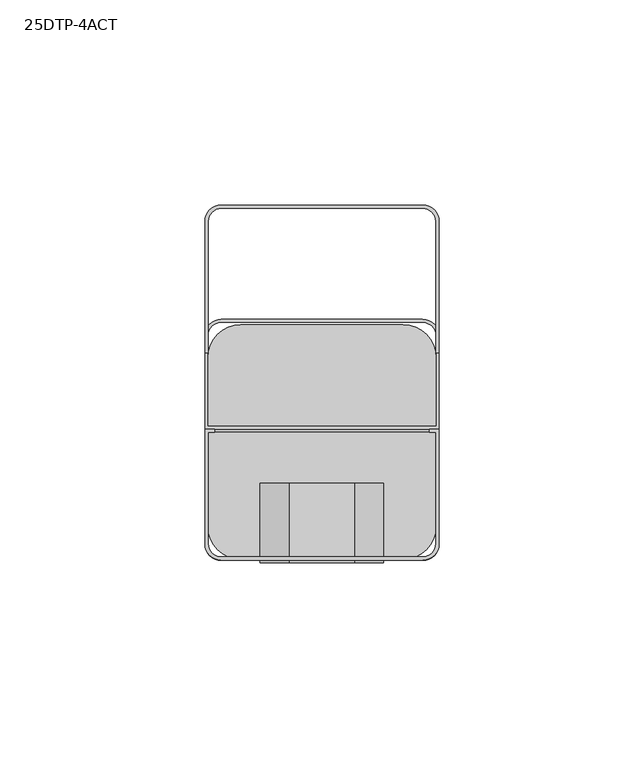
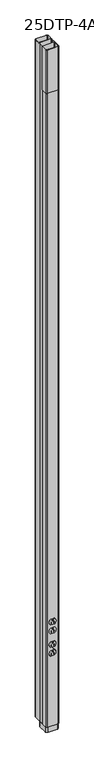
"""IFC4 building model written with IfcOpenShell, lengths in millimetres: proxy geometry, Vertical_Drop_Poles-Wiremold-Steel_Tele-Power_Pole : 25DTP-4ACT."""

from ifc_helpers import new_model, si_unit, point, frame, frame_2d, origin, origin_with_axes, place, context, project, spatial, polyline, circle_curve, trimmed, segment, composite_curve, outline, extrude, source, transform, mapped, element, save


def proxy_25dtp_4act_dfcec477(model_context):
    return source(origin(), model_context, "Body", "SweptSolid", [
        extrude(outline(composite_curve([segment(polyline([(28.575, 31.25), (28.575, 3.25)]), True, "CONTINUOUS"), segment(trimmed(circle_curve(frame_2d((24.575, 3.25)), 4.0), [point((28.575, 3.25))], [point((24.575, -0.75))], False, "CARTESIAN"), True, "CONTINUOUS"), segment(polyline([(24.575, -0.75), (-24.575, -0.75)]), True, "CONTINUOUS"), segment(trimmed(circle_curve(frame_2d((-24.575, 3.25)), 4.0), [point((-24.575, -0.75))], [point((-28.575, 3.25))], False, "CARTESIAN"), True, "CONTINUOUS"), segment(polyline([(-28.575, 3.25), (-28.575, 31.25), (-26.1875, 31.25), (-26.1875, 30.45), (-27.775, 30.45), (-27.775, 3.25)]), True, "CONTINUOUS"), segment(trimmed(circle_curve(frame_2d((-24.575, 3.25)), 3.2), [point((-27.775, 3.25))], [point((-24.575, 0.05))], True, "CARTESIAN"), True, "CONTINUOUS"), segment(polyline([(-24.575, 0.05), (24.575, 0.05)]), True, "CONTINUOUS"), segment(trimmed(circle_curve(frame_2d((24.575, 3.25)), 3.2), [point((24.575, 0.05))], [point((27.775, 3.25))], True, "CARTESIAN"), True, "CONTINUOUS"), segment(polyline([(27.775, 3.25), (27.775, 30.45), (26.1875, 30.45), (26.1875, 31.25), (28.575, 31.25)]), True, "CONTINUOUS")], self_intersect=False)), frame((0.0, 0.0, 2971.8), z_axis=(0.0, 0.0, 1.0), x_axis=(1.0, 0.0, 0.0)), (0.0, 0.0, 1.0), 203.2),
        extrude(outline(composite_curve([segment(trimmed(circle_curve(frame_2d((24.575, 81.8712581)), 4.0), [point((24.575, 85.8712581))], [point((28.575, 81.8712581))], False, "CARTESIAN"), True, "CONTINUOUS"), segment(polyline([(28.575, 81.8712581), (28.575, 49.8958686), (27.775, 49.8958686), (27.775, 81.8712581)]), True, "CONTINUOUS"), segment(trimmed(circle_curve(frame_2d((24.575, 81.8712581)), 3.2), [point((27.775, 81.8712581))], [point((24.575, 85.0712581))], True, "CARTESIAN"), True, "CONTINUOUS"), segment(polyline([(24.575, 85.0712581), (-24.575, 85.0712581)]), True, "CONTINUOUS"), segment(trimmed(circle_curve(frame_2d((-24.575, 81.8712581)), 3.2), [point((-24.575, 85.0712581))], [point((-27.775, 81.8712581))], True, "CARTESIAN"), True, "CONTINUOUS"), segment(polyline([(-27.775, 81.8712581), (-27.775, 49.8958686), (-28.575, 49.8958686), (-28.575, 81.8712581)]), True, "CONTINUOUS"), segment(trimmed(circle_curve(frame_2d((-24.575, 81.8712581)), 4.0), [point((-28.575, 81.8712581))], [point((-24.575, 85.8712581))], False, "CARTESIAN"), True, "CONTINUOUS"), segment(polyline([(-24.575, 85.8712581), (24.575, 85.8712581)]), True, "CONTINUOUS")], self_intersect=False)), origin_with_axes(), (0.0, 0.0, 1.0), 3175.0),
        extrude(outline(composite_curve([segment(trimmed(circle_curve(frame_2d((488.7029331, -1.1591271)), 13.933707), [point((500.85, -7.9853234))], [point((488.7029331, -15.092834))], False, "CARTESIAN"), True, "CONTINUOUS"), segment(polyline([(488.7029331, -15.092834), (486.7854081, -15.092834)]), True, "CONTINUOUS"), segment(trimmed(circle_curve(frame_2d((486.7854081, -0.9909304)), 14.1019036), [point((486.7854081, -15.092834))], [point((474.85, -8.5015708))], False, "CARTESIAN"), True, "CONTINUOUS"), segment(polyline([(474.85, -8.5015708), (474.85, 8.5041234)]), True, "CONTINUOUS"), segment(trimmed(circle_curve(frame_2d((486.6576313, 0.982166)), 14.0), [point((474.85, 8.5041234))], [point((486.6576313, 14.982166))], False, "CARTESIAN"), True, "CONTINUOUS"), segment(polyline([(486.6576313, 14.982166), (488.7451343, 14.982166)]), True, "CONTINUOUS"), segment(trimmed(circle_curve(frame_2d((488.7451343, 0.9958893)), 13.9862766), [point((488.7451343, 14.982166))], [point((500.85, 8.0021838))], False, "CARTESIAN"), True, "CONTINUOUS"), segment(polyline([(500.85, 8.0021838), (500.85, -7.9853234)]), True, "CONTINUOUS")], self_intersect=False), holes=[polyline([(486.9892021, -5.530934), (479.0517021, -5.530934), (479.0517021, -7.1202895), (486.9892021, -7.1202895), (486.9892021, -5.530934)]), polyline([(479.8454521, 5.29348), (486.1954521, 5.29348), (486.1954521, 6.8797105), (479.8454521, 6.8797105), (479.8454521, 5.29348)]), composite_curve([segment(polyline([(497.4329521, 2.240599), (494.2579521, 2.240599)]), True, "CONTINUOUS"), segment(trimmed(circle_curve(frame_2d((494.2579521, -0.140651)), 2.38125), [point((494.2579521, 2.240599))], [point((494.2579521, -2.521901))], True, "CARTESIAN"), True, "CONTINUOUS"), segment(polyline([(494.2579521, -2.521901), (497.4329521, -2.521901), (497.4329521, 2.240599)]), True, "CONTINUOUS")], self_intersect=False)]), frame((0.0, -0.8603814, 0.0), z_axis=(0.0, 1.0, 0.0), x_axis=(0.0, 0.0, 1.0)), (0.0, 0.0, 1.0), 19.3625),
        extrude(outline(composite_curve([segment(polyline([(459.05, 8.7098868), (459.05, -8.7111214)]), True, "CONTINUOUS"), segment(trimmed(circle_curve(frame_2d((447.3453879, -1.1683429)), 13.9244911), [point((459.05, -8.7111214))], [point((447.3453879, -15.092834))], False, "CARTESIAN"), True, "CONTINUOUS"), segment(polyline([(447.3453879, -15.092834), (445.4207127, -15.092834)]), True, "CONTINUOUS"), segment(trimmed(circle_curve(frame_2d((445.4207127, -0.9820385)), 14.1107955), [point((445.4207127, -15.092834))], [point((433.05, -7.7702649))], False, "CARTESIAN"), True, "CONTINUOUS"), segment(polyline([(433.05, -7.7702649), (433.05, 7.7817126)]), True, "CONTINUOUS"), segment(trimmed(circle_curve(frame_2d((445.293109, 0.9733088)), 14.0088572), [point((433.05, 7.7817126))], [point((445.293109, 14.982166))], False, "CARTESIAN"), True, "CONTINUOUS"), segment(polyline([(445.293109, 14.982166), (447.3875692, 14.982166)]), True, "CONTINUOUS"), segment(trimmed(circle_curve(frame_2d((447.3875692, 1.0036923)), 13.9784736), [point((447.3875692, 14.982166))], [point((459.05, 8.7098868))], False, "CARTESIAN"), True, "CONTINUOUS")], self_intersect=False), holes=[polyline([(445.5892021, -5.6947448), (437.6517021, -5.6947448), (437.6517021, -7.2841003), (445.5892021, -7.2841003), (445.5892021, -5.6947448)]), polyline([(438.4454521, 5.29348), (444.7954521, 5.29348), (444.7954521, 6.8797105), (438.4454521, 6.8797105), (438.4454521, 5.29348)]), composite_curve([segment(polyline([(456.0329521, 2.240599), (452.8579521, 2.240599)]), True, "CONTINUOUS"), segment(trimmed(circle_curve(frame_2d((452.8579521, -0.140651)), 2.38125), [point((452.8579521, 2.240599))], [point((452.8579521, -2.521901))], True, "CARTESIAN"), True, "CONTINUOUS"), segment(polyline([(452.8579521, -2.521901), (456.0329521, -2.521901), (456.0329521, 2.240599)]), True, "CONTINUOUS")], self_intersect=False)]), frame((0.0, -0.8603814, 0.0), z_axis=(0.0, 1.0, 0.0), x_axis=(0.0, 0.0, 1.0)), (0.0, 0.0, 1.0), 19.3625),
        extrude(outline(composite_curve([segment(trimmed(circle_curve(frame_2d((19.825, 49.2375)), 8.0), [point((19.825, 57.2375))], [point((27.825, 49.2375))], False, "CARTESIAN"), True, "CONTINUOUS"), segment(polyline([(27.825, 49.2375), (27.825, 8.0)]), True, "CONTINUOUS"), segment(trimmed(circle_curve(frame_2d((19.825, 8.0)), 8.0), [point((27.825, 8.0))], [point((19.825, 0.0))], False, "CARTESIAN"), True, "CONTINUOUS"), segment(polyline([(19.825, 0.0), (-19.825, 0.0)]), True, "CONTINUOUS"), segment(trimmed(circle_curve(frame_2d((-19.825, 8.0)), 8.0), [point((-19.825, 0.0))], [point((-27.825, 8.0))], False, "CARTESIAN"), True, "CONTINUOUS"), segment(polyline([(-27.825, 8.0), (-27.825, 49.2375)]), True, "CONTINUOUS"), segment(trimmed(circle_curve(frame_2d((-19.825, 49.2375)), 8.0), [point((-27.825, 49.2375))], [point((-19.825, 57.2375))], False, "CARTESIAN"), True, "CONTINUOUS"), segment(polyline([(-19.825, 57.2375), (19.825, 57.2375)]), True, "CONTINUOUS")], self_intersect=False)), frame((0.0, 0.0, -25.4), z_axis=(0.0, 0.0, 1.0), x_axis=(1.0, 0.0, 0.0)), (0.0, 0.0, 1.0), 25.4),
        extrude(outline(composite_curve([segment(trimmed(circle_curve(frame_2d((382.9267215, -1.3683703)), 13.514578), [point((394.7420503, -7.9289972))], [point((382.9267215, -14.8829484))], False, "CARTESIAN"), True, "CONTINUOUS"), segment(polyline([(382.9267215, -14.8829484), (381.1701673, -14.8829484)]), True, "CONTINUOUS"), segment(trimmed(circle_curve(frame_2d((381.1701673, -0.7955272)), 14.0874212), [point((381.1701673, -14.8829484))], [point((369.2960251, -8.3757767))], False, "CARTESIAN"), True, "CONTINUOUS"), segment(polyline([(369.2960251, -8.3757767), (369.2960251, 8.3803147)]), True, "CONTINUOUS"), segment(trimmed(circle_curve(frame_2d((380.7601645, 0.7899761)), 13.749172), [point((369.2960251, 8.3803147))], [point((380.7601645, 14.5391481))], False, "CARTESIAN"), True, "CONTINUOUS"), segment(polyline([(380.7601645, 14.5391481), (382.9712291, 14.5391481)]), True, "CONTINUOUS"), segment(trimmed(circle_curve(frame_2d((382.9712291, 0.7346672)), 13.8044809), [point((382.9712291, 14.5391481))], [point((394.7420503, 7.9465645))], False, "CARTESIAN"), True, "CONTINUOUS"), segment(polyline([(394.7420503, 7.9465645), (394.7420503, -7.9289972)]), True, "CONTINUOUS")], self_intersect=False), holes=[polyline([(381.1730138, -5.530934), (373.5125012, -5.530934), (373.5125012, -7.1202895), (381.1730138, -7.1202895), (381.1730138, -5.530934)]), polyline([(374.3062512, 5.29348), (380.3792638, 5.29348), (380.3792638, 6.8797105), (374.3062512, 6.8797105), (374.3062512, 5.29348)]), composite_curve([segment(polyline([(391.6167638, 2.240599), (388.4417638, 2.240599)]), True, "CONTINUOUS"), segment(trimmed(circle_curve(frame_2d((388.4417638, -0.140651)), 2.38125), [point((388.4417638, 2.240599))], [point((388.4417638, -2.521901))], True, "CARTESIAN"), True, "CONTINUOUS"), segment(polyline([(388.4417638, -2.521901), (391.6167638, -2.521901), (391.6167638, 2.240599)]), True, "CONTINUOUS")], self_intersect=False)]), frame((0.0, -0.8603814, 0.0), z_axis=(0.0, 1.0, 0.0), x_axis=(0.0, 0.0, 1.0)), (0.0, 0.0, 1.0), 19.3625),
        extrude(outline(composite_curve([segment(polyline([(353.4960251, 8.732199), (353.4960251, -8.7339979)]), True, "CONTINUOUS"), segment(trimmed(circle_curve(frame_2d((341.9368061, -1.0863882)), 13.8600678), [point((353.4960251, -8.7339979))], [point((341.9368061, -14.946456))], False, "CARTESIAN"), True, "CONTINUOUS"), segment(polyline([(341.9368061, -14.946456), (340.151998, -14.946456)]), True, "CONTINUOUS"), segment(trimmed(circle_curve(frame_2d((340.151998, -1.1565771)), 13.7898789), [point((340.151998, -14.946456))], [point((328.05, -7.7673565))], False, "CARTESIAN"), True, "CONTINUOUS"), segment(polyline([(328.05, -7.7673565), (328.05, 7.7787932)]), True, "CONTINUOUS"), segment(trimmed(circle_curve(frame_2d((340.0358326, 0.6795122)), 13.930541), [point((328.05, 7.7787932))], [point((340.0358326, 14.6100532))], False, "CARTESIAN"), True, "CONTINUOUS"), segment(polyline([(340.0358326, 14.6100532), (342.2553533, 14.6100532)]), True, "CONTINUOUS"), segment(trimmed(circle_curve(frame_2d((342.2553533, 0.9229263)), 13.6871269), [point((342.2553533, 14.6100532))], [point((353.4960251, 8.732199))], False, "CARTESIAN"), True, "CONTINUOUS")], self_intersect=False), holes=[polyline([(340.3269886, -5.6947448), (332.6664761, -5.6947448), (332.6664761, -7.2841003), (340.3269886, -7.2841003), (340.3269886, -5.6947448)]), polyline([(333.4602261, 5.29348), (339.5332386, 5.29348), (339.5332386, 6.8797105), (333.4602261, 6.8797105), (333.4602261, 5.29348)]), composite_curve([segment(polyline([(350.4937512, 2.240599), (347.5957386, 2.240599)]), True, "CONTINUOUS"), segment(trimmed(circle_curve(frame_2d((347.5957386, -0.140651)), 2.38125), [point((347.5957386, 2.240599))], [point((347.5957386, -2.521901))], True, "CARTESIAN"), True, "CONTINUOUS"), segment(polyline([(347.5957386, -2.521901), (350.4937512, -2.521901), (350.4937512, 2.240599)]), True, "CONTINUOUS")], self_intersect=False)]), frame((0.0, -0.8603814, 0.0), z_axis=(0.0, 1.0, 0.0), x_axis=(0.0, 0.0, 1.0)), (0.0, 0.0, 1.0), 19.3625),
        extrude(outline(composite_curve([segment(trimmed(circle_curve(frame_2d((24.575, 53.9875)), 4.0), [point((24.575, 57.9875))], [point((28.575, 53.9875))], False, "CARTESIAN"), True, "CONTINUOUS"), segment(polyline([(28.575, 53.9875), (28.575, 31.25), (-28.575, 31.25), (-28.575, 53.9875)]), True, "CONTINUOUS"), segment(trimmed(circle_curve(frame_2d((-24.575, 53.9875)), 4.0), [point((-28.575, 53.9875))], [point((-24.575, 57.9875))], False, "CARTESIAN"), True, "CONTINUOUS"), segment(polyline([(-24.575, 57.9875), (24.575, 57.9875)]), True, "CONTINUOUS")], self_intersect=False), holes=[composite_curve([segment(polyline([(27.775, 32.05), (27.775, 53.9875)]), True, "CONTINUOUS"), segment(trimmed(circle_curve(frame_2d((24.575, 53.9875)), 3.2), [point((27.775, 53.9875))], [point((24.575, 57.1875))], True, "CARTESIAN"), True, "CONTINUOUS"), segment(polyline([(24.575, 57.1875), (-24.575, 57.1875)]), True, "CONTINUOUS"), segment(trimmed(circle_curve(frame_2d((-24.575, 53.9875)), 3.2), [point((-24.575, 57.1875))], [point((-27.775, 53.9875))], True, "CARTESIAN"), True, "CONTINUOUS"), segment(polyline([(-27.775, 53.9875), (-27.775, 32.05), (27.775, 32.05)]), True, "CONTINUOUS")], self_intersect=False)]), origin_with_axes(), (0.0, 0.0, 1.0), 3175.0),
        extrude(outline(composite_curve([segment(polyline([(28.575, 31.25), (28.575, 3.25)]), True, "CONTINUOUS"), segment(trimmed(circle_curve(frame_2d((24.575, 3.25)), 4.0), [point((28.575, 3.25))], [point((24.575, -0.75))], False, "CARTESIAN"), True, "CONTINUOUS"), segment(polyline([(24.575, -0.75), (-24.575, -0.75)]), True, "CONTINUOUS"), segment(trimmed(circle_curve(frame_2d((-24.575, 3.25)), 4.0), [point((-24.575, -0.75))], [point((-28.575, 3.25))], False, "CARTESIAN"), True, "CONTINUOUS"), segment(polyline([(-28.575, 3.25), (-28.575, 31.25), (28.575, 31.25)]), True, "CONTINUOUS")], self_intersect=False), holes=[composite_curve([segment(polyline([(-27.775, 30.45), (-27.775, 3.25)]), True, "CONTINUOUS"), segment(trimmed(circle_curve(frame_2d((-24.575, 3.25)), 3.2), [point((-27.775, 3.25))], [point((-24.575, 0.05))], True, "CARTESIAN"), True, "CONTINUOUS"), segment(polyline([(-24.575, 0.05), (24.575, 0.05)]), True, "CONTINUOUS"), segment(trimmed(circle_curve(frame_2d((24.575, 3.25)), 3.2), [point((24.575, 0.05))], [point((27.775, 3.25))], True, "CARTESIAN"), True, "CONTINUOUS"), segment(polyline([(27.775, 3.25), (27.775, 30.45), (-27.775, 30.45)]), True, "CONTINUOUS")], self_intersect=False)]), origin_with_axes(), (0.0, 0.0, 1.0), 2971.8),
    ])


if __name__ == "__main__":
    model = new_model("IFC4")
    model_context = context("Model", 3, world=origin())
    ifc_project = project(units=[si_unit("LENGTHUNIT", "METRE", prefix="MILLI")], contexts=[model_context])
    site = spatial("IfcSite", under=ifc_project)
    building = spatial("IfcBuilding", under=site)
    placement = place(None, origin())
    proxy_25dtp_4act_shape = proxy_25dtp_4act_dfcec477(model_context)
    element("IfcBuildingElementProxy", 1, Name="Vertical_Drop_Poles-Wiremold-Steel_Tele-Power_Pole : 25DTP-4ACT", ObjectType="Vertical_Drop_Poles-Wiremold-Steel_Tele-Power_Pole : 25DTP-4ACT", at=placement, inside=building, context=model_context, shape_type="MappedRepresentation", body=[
        mapped(proxy_25dtp_4act_shape, transform((0.0, 0.0, 0.0), x_axis=(1.0, 0.0, 0.0), y_axis=(0.0, 1.0, 0.0), z_axis=(0.0, 0.0, 1.0))),
    ])
    save(model, "model.ifc")
